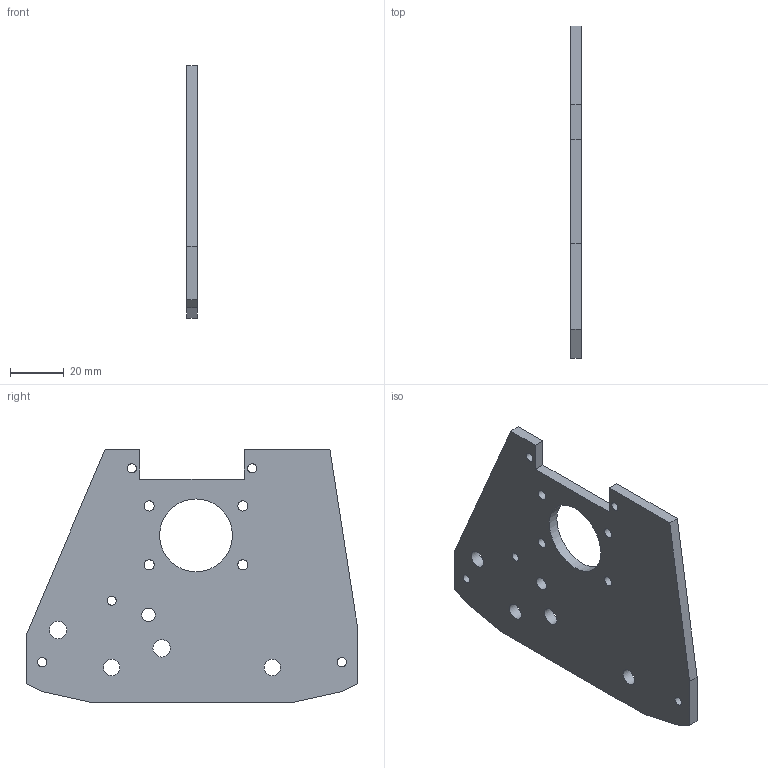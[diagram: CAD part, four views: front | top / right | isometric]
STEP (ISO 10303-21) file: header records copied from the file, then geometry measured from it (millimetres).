
FILE_DESCRIPTION(('Open CASCADE Model'),'2;1');
FILE_NAME('Open CASCADE Shape Model','2026-10-16T02:10:56',('Author'),( 'Open CASCADE'),'Open CASCADE STEP processor 7.9','Open CASCADE 7.9' ,'Unknown');
FILE_SCHEMA(('AUTOMOTIVE_DESIGN { 1 0 10303 214 1 1 1 1 }'));
Length unit declared in the file: millimetre
Products named in the file (1): Open CASCADE STEP translator 7.9 4
Bounding box: 4 x 124 x 94.36 mm (x, y, z)
Volume: 35753.2 mm3; surface area: 20661.7 mm2
Topology: 1 solids, 1 shells, 31 faces, 87 edges, 58 vertices
Faces by surface type: plane 16, cylinder 15
Full cylindrical faces by diameter (mm): 3.4 x5, 3.8 x4, 5.1 x1, 6.2 x2, 6.5 x2, 27.2 x1
Entity records: 2302 total; most frequent: CARTESIAN_POINT 531, DIRECTION 325, LINE 201, VECTOR 201, ORIENTED_EDGE 174, PCURVE 174, DEFINITIONAL_REPRESENTATION 174, EDGE_CURVE 87
